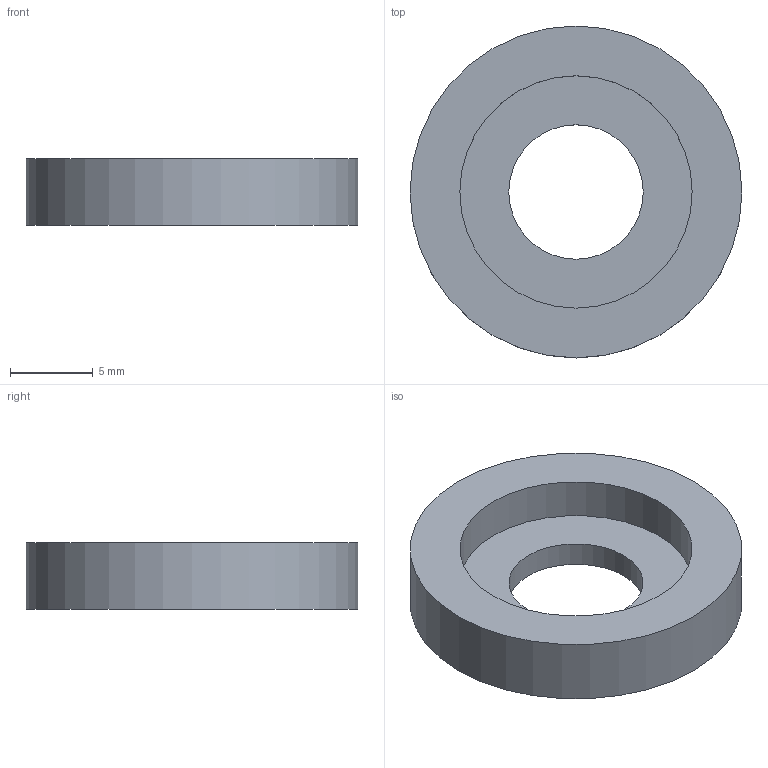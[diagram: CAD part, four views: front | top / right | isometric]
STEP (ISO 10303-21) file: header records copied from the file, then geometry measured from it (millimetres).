
FILE_DESCRIPTION(/* description */ ('Reducing sleeve bottom'),/* implementation_level */ '2;1');
FILE_NAME(/* name */ 'ITPTv2.01.00.38.stp',/* time_stamp */ '2025-02-12T11:23:55+01:00',/* author */ ('Rüdiger Widera'),/* organization */ (''),/* preprocessor_version */ 'ST-DEVELOPER v19.2',/* originating_system */ 'Autodesk Inventor 2024',/* authorisation */ '');
FILE_SCHEMA (('AUTOMOTIVE_DESIGN { 1 0 10303 214 3 1 1 }'));
Length unit declared in the file: millimetre
Products named in the file (1): ITPTv2.01.00.38
Bounding box: 20 x 20 x 4 mm (x, y, z)
Volume: 794.5 mm3; surface area: 924.7 mm2
Topology: 1 solids, 1 shells, 6 faces, 9 edges, 6 vertices
Faces by surface type: cylinder 3, plane 3
Full cylindrical faces by diameter (mm): 8.1 x1, 14 x1, 20 x1
Entity records: 186 total; most frequent: DIRECTION 29, CARTESIAN_POINT 22, ORIENTED_EDGE 18, AXIS2_PLACEMENT_3D 13, EDGE_LOOP 9, EDGE_CURVE 9, FACE_OUTER_BOUND 6, CIRCLE 6
